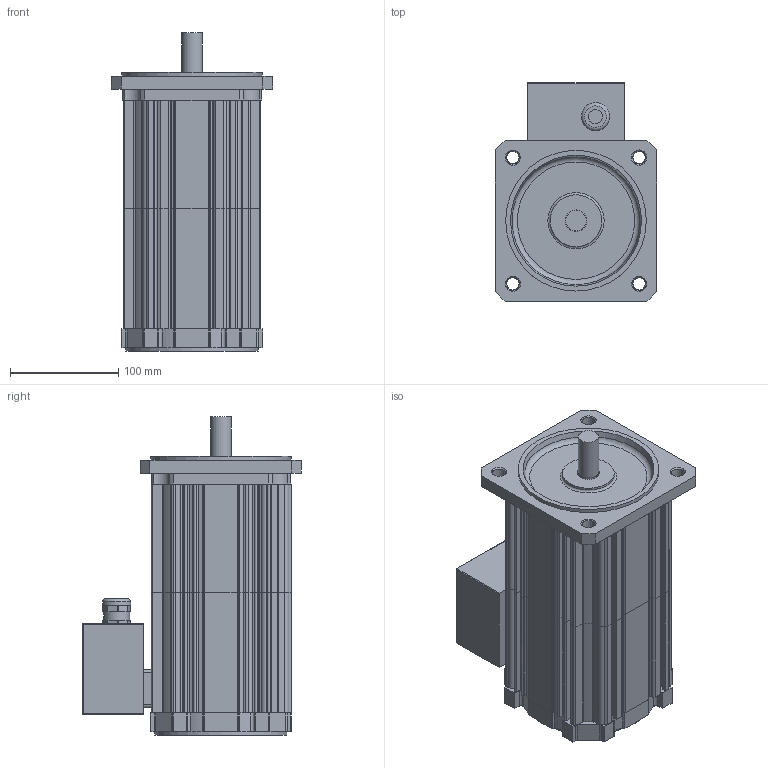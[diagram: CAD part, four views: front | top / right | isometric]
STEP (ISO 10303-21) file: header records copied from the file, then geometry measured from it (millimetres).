
FILE_DESCRIPTION(/* description */ (''),/* implementation_level */ '2;1');
FILE_NAME(/* name */ 'KSA6412',/* time_stamp */ '2009-02-26T14:45:41+01:00',/* author */ (''),/* organization */ (''),/* preprocessor_version */ 'ST-DEVELOPER v8',/* originating_system */ 'UNIGRAPHICS SOLUTIONS - UNIGRAPHICS 18.0',/* authorisation */ '');
FILE_SCHEMA (('AUTOMOTIVE_DESIGN { 1 2 10303 214 0 1 1 1 }'));
Length unit declared in the file: millimetre
Products named in the file (6): 0280391350_0; 089106X_0; LagerschBS_0; LagerschAS_0; Klemmenkasten_0; KSA6616_0
Assembly tree (5 placements, depth 3):
  KSA6616_0
    LagerschAS_0
    Klemmenkasten_0
      0280391350_0
    LagerschBS_0
    089106X_0
Bounding box: 149 x 202.35 x 294 mm (x, y, z)
Volume: 2089698.2 mm3; surface area: 508794.1 mm2
Topology: 6 solids, 6 shells, 615 faces, 1738 edges, 1145 vertices
Faces by surface type: cylinder 331, plane 266, cone 10, torus 4, sphere 4
Full cylindrical faces by diameter (mm): 13 x1, 18 x1, 19 x1, 20 x2, 24 x1, 26 x1, 48 x1, 114 x1, 119.7 x2, 121 x1, 122 x2, 130 x1
Entity records: 20117 total; most frequent: DIRECTION 3636, CARTESIAN_POINT 3459, ORIENTED_EDGE 3398, EDGE_CURVE 1699, AXIS2_PLACEMENT_3D 1316, VERTEX_POINT 1139, LINE 1004, VECTOR 1004
